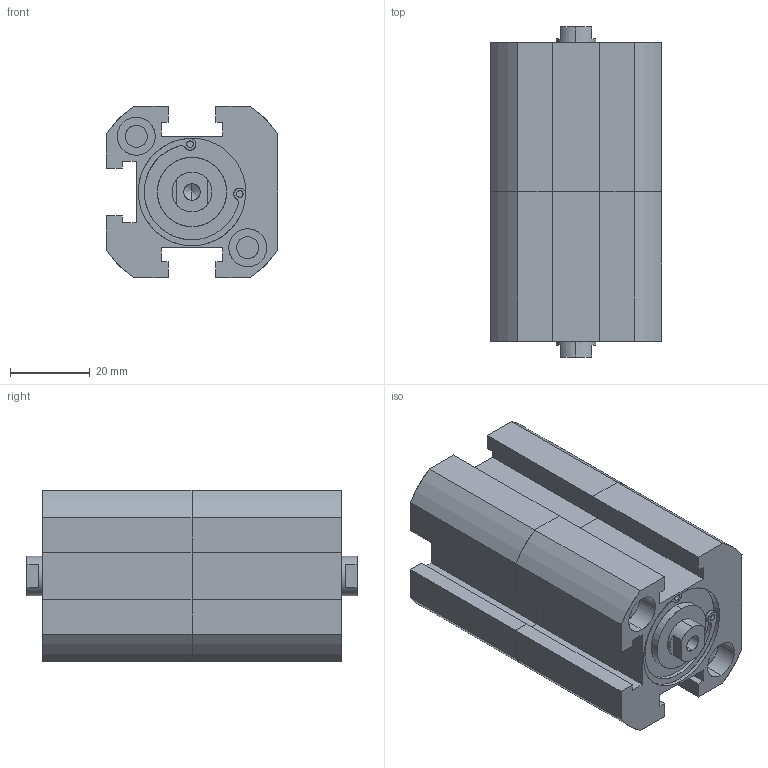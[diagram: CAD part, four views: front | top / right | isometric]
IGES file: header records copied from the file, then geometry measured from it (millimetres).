
Start section: SolidWorks IGES file using analytic representation for surfaces
Global section: file name: C:\Users\Toshiba\Desktop\XGD7-25-10-10.IGS; native system: SolidWorks 2014; preprocessor: SolidWorks 2014; author: Toshiba; date: 160805.094258; units: millimetre
Bounding box: 43 x 83 x 43 mm (x, y, z)
Surface area: 27363.5 mm2 (no closed solid volume)
Topology: 0 solids, 0 shells, 184 faces, 2612 edges, 2600 vertices
Faces by surface type: revolution 96, bspline 88
